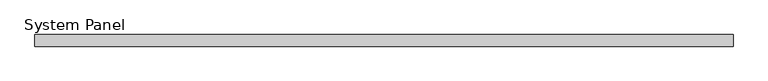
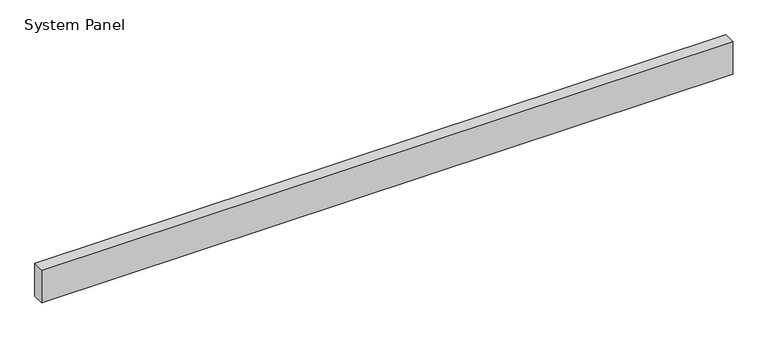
"""IFC4 building model written with IfcOpenShell, lengths in millimetres: plate geometry, System Panel : Inspire 100mm Horizontal - Plain RHEA-PIR."""

import ifcopenshell
import ifcopenshell.guid

model = None  # the IFC model being written
_history = None  # IfcOwnerHistory: only IFC2X3 demands one
_inside = {}  # id of a spatial element -> (the spatial element, [elements in it])
_under = {}  # id of a project, library or spatial element -> (it, [spatial elements below it])
_declared = {}  # id of a project -> (the project, [libraries it declares])
_typed = {}  # id of a type object -> (the type object, [elements of that type])
_made_of = {}  # id of a material, layer set ... -> (it, [elements and type objects made of it])


def new_model(schema):
    """Start an empty IFC model of exactly this schema.

    Asked for "IFC4X3", IfcOpenShell would pick the latest addendum, in which some entities
    have other attributes; the version numbers below select the first issue.
    IFC2X3 requires an IfcOwnerHistory on every rooted entity: one is made here for all.
    """
    global model, _history
    if schema == "IFC4X3":
        model = ifcopenshell.file(schema_version=(4, 3, 0, 0))
    else:
        model = ifcopenshell.file(schema=schema)
    _inside.clear()
    _under.clear()
    _declared.clear()
    _typed.clear()
    _made_of.clear()
    _history = None
    if model.schema == "IFC2X3":
        org = make("IfcOrganization", Name="unknown")
        user = make(
            "IfcPersonAndOrganization",
            ThePerson=make("IfcPerson", FamilyName="unknown"),
            TheOrganization=org,
        )
        app = make(
            "IfcApplication",
            ApplicationDeveloper=org,
            Version="unknown",
            ApplicationFullName="unknown",
            ApplicationIdentifier="unknown",
        )
        _history = make(
            "IfcOwnerHistory",
            OwningUser=user,
            OwningApplication=app,
            ChangeAction="ADDED",
            CreationDate=0,
        )
    return model


def make(cls, **values):
    """One entity of the class cls with the attributes given. An attribute that is None is left unset."""
    return model.create_entity(
        cls, **{name: value for name, value in values.items() if value is not None}
    )


def rooted(cls, **values):
    """An entity with a GlobalId (a new one), such as an element, a storey or a relation."""
    return make(cls, GlobalId=ifcopenshell.guid.new(), OwnerHistory=_history, **values)


def si_unit(unit_type, name, prefix=None):
    """IfcSIUnit, for example si_unit("LENGTHUNIT", "METRE", prefix="MILLI")."""
    return make("IfcSIUnit", UnitType=unit_type, Prefix=prefix, Name=name)


def assignment(units):
    """IfcUnitAssignment: the units of a project."""
    return None if units is None else make("IfcUnitAssignment", Units=units)


def point(xyz):
    """IfcCartesianPoint."""
    return None if xyz is None else make("IfcCartesianPoint", Coordinates=xyz)


def direction(xyz):
    """IfcDirection."""
    return None if xyz is None else make("IfcDirection", DirectionRatios=xyz)


def frame(location, z_axis=None, x_axis=None):
    """IfcAxis2Placement3D, a coordinate frame: its origin and axes. An axis left out is left unset."""
    return make(
        "IfcAxis2Placement3D",
        Location=point(location),
        Axis=direction(z_axis),
        RefDirection=direction(x_axis),
    )


def origin():
    """The frame at (0, 0, 0) with its axes left unset."""
    return frame((0.0, 0.0, 0.0))


def origin_with_axes():
    """The frame at (0, 0, 0) with the z axis (0, 0, 1) and the x axis (1, 0, 0) written out."""
    return frame((0.0, 0.0, 0.0), z_axis=(0.0, 0.0, 1.0), x_axis=(1.0, 0.0, 0.0))


def place(relative_to, where):
    """IfcLocalPlacement: puts the frame where relative to a parent placement (None: the world)."""
    return make(
        "IfcLocalPlacement", PlacementRelTo=relative_to, RelativePlacement=where
    )


def context(
    kind, dimensions, precision=None, world=None, true_north=None, identifier=None
):
    """IfcGeometricRepresentationContext, for example the 3D "Model" context."""
    return make(
        "IfcGeometricRepresentationContext",
        ContextIdentifier=identifier,
        ContextType=kind,
        CoordinateSpaceDimension=dimensions,
        Precision=precision,
        WorldCoordinateSystem=world,
        TrueNorth=true_north,
    )


def project(units=None, contexts=None):
    """IfcProject with its units and contexts."""
    return rooted(
        "IfcProject",
        Name="project",
        RepresentationContexts=contexts,
        UnitsInContext=assignment(units),
    )


def spatial(cls, under=None, at=None, **own):
    """A site, building, storey or space (cls), placed at a placement, below another one or the project."""
    s = rooted(cls, ObjectPlacement=at, **own)
    if under is not None:
        _under.setdefault(under.id(), (under, []))[1].append(s)
    return s


def polyline(points):
    """IfcPolyline through the points."""
    return make("IfcPolyline", Points=[point(p) for p in points])


def outline(outer, holes=None, kind="AREA"):
    """IfcArbitraryClosedProfileDef: a profile drawn as a closed curve; with holes, ...WithVoids."""
    if holes is None:
        return make("IfcArbitraryClosedProfileDef", ProfileType=kind, OuterCurve=outer)
    return make(
        "IfcArbitraryProfileDefWithVoids",
        ProfileType=kind,
        OuterCurve=outer,
        InnerCurves=holes,
    )


def extrude(swept, where, along, depth):
    """IfcExtrudedAreaSolid: the profile swept, set in the frame where, extruded along a direction by depth."""
    return make(
        "IfcExtrudedAreaSolid",
        SweptArea=swept,
        Position=where,
        ExtrudedDirection=direction(along),
        Depth=depth,
    )


def shape(context_of_items, identifier, shape_type, items):
    """IfcShapeRepresentation: the items that make up one representation, for example the "Body"."""
    return make(
        "IfcShapeRepresentation",
        ContextOfItems=context_of_items,
        RepresentationIdentifier=identifier,
        RepresentationType=shape_type,
        Items=items,
    )


def source(mapping_origin, context_of_items, identifier, shape_type, items):
    """IfcRepresentationMap: a shape defined once, which mapped items show again and again."""
    return make(
        "IfcRepresentationMap",
        MappingOrigin=mapping_origin,
        MappedRepresentation=shape(context_of_items, identifier, shape_type, items),
    )


def transform(
    local_origin,
    x_axis=None,
    y_axis=None,
    z_axis=None,
    scale=None,
    scale2=None,
    scale3=None,
    uniform=True,
):
    """IfcCartesianTransformationOperator3D, or its non-uniform kind. x_axis, y_axis, z_axis: its Axis1, 2, 3."""
    if uniform:
        return make(
            "IfcCartesianTransformationOperator3D",
            Axis1=direction(x_axis),
            Axis2=direction(y_axis),
            LocalOrigin=point(local_origin),
            Scale=scale,
            Axis3=direction(z_axis),
        )
    return make(
        "IfcCartesianTransformationOperator3DnonUniform",
        Axis1=direction(x_axis),
        Axis2=direction(y_axis),
        LocalOrigin=point(local_origin),
        Scale=scale,
        Axis3=direction(z_axis),
        Scale2=scale2,
        Scale3=scale3,
    )


def mapped(mapping_source, mapping_target):
    """IfcMappedItem: shows the shape of a source again, moved by a transform."""
    return make(
        "IfcMappedItem", MappingSource=mapping_source, MappingTarget=mapping_target
    )


def made_of(thing, what):
    """Note that an element or type object is made of a material, layer set ...; save() writes the relation."""
    if what is not None:
        _made_of.setdefault(what.id(), (what, []))[1].append(thing)
    return thing


def element(
    cls,
    number,
    at=None,
    inside=None,
    cuts=None,
    type_object=None,
    material=None,
    context=None,
    identifier="Body",
    shape_type=None,
    held_by="IfcProductDefinitionShape",
    body=None,
    shapes=None,
    **own,
):
    """One element of the class cls, such as IfcWall. Its Tag is "e" and its number.

    at: its placement. inside: the storey or other place that contains it. cuts: it is an
    opening in that element (IfcRelVoidsElement). A single representation is given by context,
    identifier, shape_type and body (its items); several are given by shapes. held_by: the class
    of the entity that holds the representations. save() writes the other relations.
    """
    e = rooted(cls, Tag="e%d" % number, ObjectPlacement=at, **own)
    if body is not None:
        shapes = [shape(context, identifier, shape_type, body)]
    if shapes is not None:
        e.Representation = make(held_by, Representations=shapes)
    if inside is not None:
        _inside.setdefault(inside.id(), (inside, []))[1].append(e)
    if cuts is not None:
        rooted(
            "IfcRelVoidsElement", RelatingBuildingElement=cuts, RelatedOpeningElement=e
        )
    if type_object is not None:
        _typed.setdefault(type_object.id(), (type_object, []))[1].append(e)
    return made_of(e, material)


def aggregate(whole, parts):
    """IfcRelAggregates: a whole, such as a stair, and the parts it consists of."""
    return rooted("IfcRelAggregates", RelatingObject=whole, RelatedObjects=parts)


def save(model, path):
    """Write the relations noted so far, then the file.

    IfcRelAggregates (storeys below a building ...), IfcRelContainedInSpatialStructure (elements
    in a storey), IfcRelDefinesByType, IfcRelAssociatesMaterial and IfcRelDeclares: one each for
    every whole, place, type object, material and project.
    """
    for whole, parts in _under.values():
        aggregate(whole, parts)
    for where, things in _inside.values():
        rooted(
            "IfcRelContainedInSpatialStructure",
            RelatedElements=things,
            RelatingStructure=where,
        )
    for kind, things in _typed.values():
        rooted("IfcRelDefinesByType", RelatedObjects=things, RelatingType=kind)
    for what, things in _made_of.values():
        rooted("IfcRelAssociatesMaterial", RelatedObjects=things, RelatingMaterial=what)
    for by, libraries in _declared.values():
        rooted("IfcRelDeclares", RelatingContext=by, RelatedDefinitions=libraries)
    model.write(path)


def system_panel_555d0246(model_context):
    return source(origin(), model_context, "Body", "SweptSolid", [
        extrude(outline(polyline([(2995.0, 0.0), (-2995.0, 0.0), (-2995.0, 100.0), (2995.0, 100.0), (2995.0, 0.0)])), origin_with_axes(), (0.0, 0.0, 1.0), 300.0),
    ])


if __name__ == "__main__":
    model = new_model("IFC4")
    model_context = context("Model", 3, world=origin())
    ifc_project = project(units=[si_unit("LENGTHUNIT", "METRE", prefix="MILLI")], contexts=[model_context])
    site = spatial("IfcSite", under=ifc_project)
    building = spatial("IfcBuilding", under=site)
    placement = place(None, origin())
    system_panel_shape = system_panel_555d0246(model_context)
    element("IfcPlate", 1, ObjectType="System Panel : Inspire 100mm Horizontal - Plain RHEA-PIR", at=placement, inside=building, context=model_context, shape_type="MappedRepresentation", body=[
        mapped(system_panel_shape, transform((0.0, 0.0, 0.0), x_axis=(1.0, 0.0, 0.0), y_axis=(0.0, 1.0, 0.0), z_axis=(0.0, 0.0, 1.0))),
    ])
    save(model, "model.ifc")
